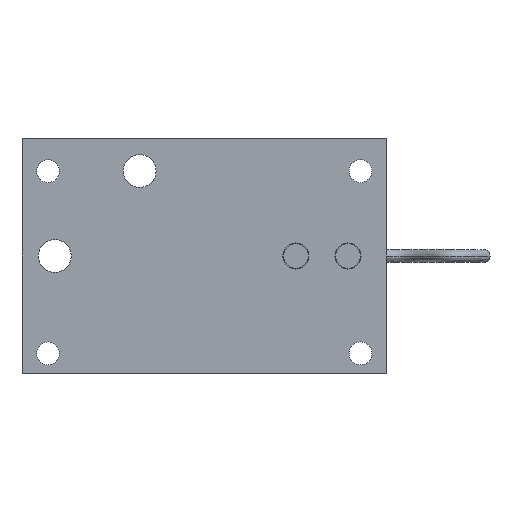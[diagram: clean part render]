
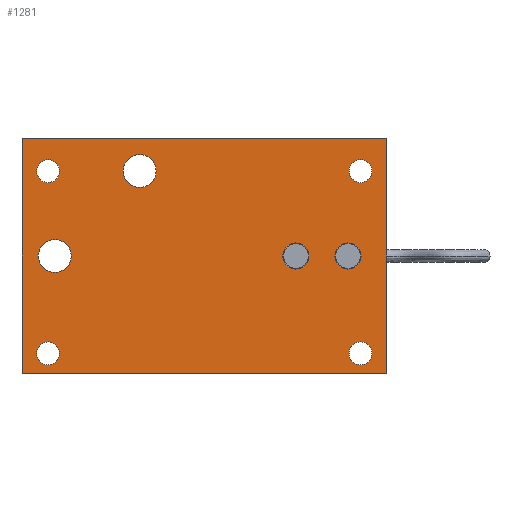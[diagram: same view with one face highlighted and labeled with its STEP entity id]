
A CAD part, front view. The second image highlights one B-rep face of the part: STEP entity #1281.
In plain terms, the highlighted planar face has unit normal (0, -1, 0).
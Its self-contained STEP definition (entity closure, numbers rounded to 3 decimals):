
#1=CARTESIAN_POINT('',(-76.2,0.,-47.5));
#2=DIRECTION('',(0.,-1.,0.));
#3=DIRECTION('',(1.,0.,0.));
#4=AXIS2_PLACEMENT_3D('',#1,#2,#3);
#6=CARTESIAN_POINT('',(-76.2,0.,-47.5));
#7=DIRECTION('',(0.,-1.,0.));
#8=DIRECTION('',(-1.,0.,0.));
#9=AXIS2_PLACEMENT_3D('',#6,#7,#8);
#11=CARTESIAN_POINT('',(-76.2,0.,41.4));
#12=DIRECTION('',(0.,-1.,0.));
#13=DIRECTION('',(1.,0.,0.));
#14=AXIS2_PLACEMENT_3D('',#11,#12,#13);
#16=CARTESIAN_POINT('',(-76.2,0.,41.4));
#17=DIRECTION('',(0.,-1.,0.));
#18=DIRECTION('',(-1.,0.,0.));
#19=AXIS2_PLACEMENT_3D('',#16,#17,#18);
#21=CARTESIAN_POINT('',(76.2,0.,41.4));
#22=DIRECTION('',(0.,-1.,0.));
#23=DIRECTION('',(1.,0.,0.));
#24=AXIS2_PLACEMENT_3D('',#21,#22,#23);
#26=CARTESIAN_POINT('',(76.2,0.,41.4));
#27=DIRECTION('',(0.,-1.,0.));
#28=DIRECTION('',(-1.,0.,0.));
#29=AXIS2_PLACEMENT_3D('',#26,#27,#28);
#31=CARTESIAN_POINT('',(76.2,0.,-47.5));
#32=DIRECTION('',(0.,-1.,0.));
#33=DIRECTION('',(1.,0.,0.));
#34=AXIS2_PLACEMENT_3D('',#31,#32,#33);
#36=CARTESIAN_POINT('',(76.2,0.,-47.5));
#37=DIRECTION('',(0.,-1.,0.));
#38=DIRECTION('',(-1.,0.,0.));
#39=AXIS2_PLACEMENT_3D('',#36,#37,#38);
#41=CARTESIAN_POINT('',(-72.9,0.,0.));
#42=DIRECTION('',(0.,-1.,0.));
#43=DIRECTION('',(1.,0.,0.));
#44=AXIS2_PLACEMENT_3D('',#41,#42,#43);
#46=CARTESIAN_POINT('',(-72.9,0.,0.));
#47=DIRECTION('',(0.,-1.,0.));
#48=DIRECTION('',(-1.,0.,0.));
#49=AXIS2_PLACEMENT_3D('',#46,#47,#48);
#51=CARTESIAN_POINT('',(-31.5,0.,41.4));
#52=DIRECTION('',(0.,-1.,0.));
#53=DIRECTION('',(1.,0.,0.));
#54=AXIS2_PLACEMENT_3D('',#51,#52,#53);
#56=CARTESIAN_POINT('',(-31.5,0.,41.4));
#57=DIRECTION('',(0.,-1.,0.));
#58=DIRECTION('',(-1.,0.,0.));
#59=AXIS2_PLACEMENT_3D('',#56,#57,#58);
#61=CARTESIAN_POINT('',(70.1,0.,0.));
#62=DIRECTION('',(0.,-1.,0.));
#63=DIRECTION('',(1.,0.,0.));
#64=AXIS2_PLACEMENT_3D('',#61,#62,#63);
#66=CARTESIAN_POINT('',(70.1,0.,0.));
#67=DIRECTION('',(0.,-1.,0.));
#68=DIRECTION('',(-1.,0.,0.));
#69=AXIS2_PLACEMENT_3D('',#66,#67,#68);
#71=CARTESIAN_POINT('',(44.7,0.,0.));
#72=DIRECTION('',(0.,-1.,0.));
#73=DIRECTION('',(1.,0.,0.));
#74=AXIS2_PLACEMENT_3D('',#71,#72,#73);
#76=CARTESIAN_POINT('',(44.7,0.,0.));
#77=DIRECTION('',(0.,-1.,0.));
#78=DIRECTION('',(-1.,0.,0.));
#79=AXIS2_PLACEMENT_3D('',#76,#77,#78);
#81=DIRECTION('',(0.,0.,1.));
#82=VECTOR('',#81,114.3);
#83=CARTESIAN_POINT('',(-88.9,0.,-57.15));
#84=LINE('',#83,#82);
#89=DIRECTION('',(-1.,0.,0.));
#90=VECTOR('',#89,177.8);
#91=CARTESIAN_POINT('',(88.9,0.,-57.15));
#92=LINE('',#91,#90);
#121=DIRECTION('',(0.,0.,-1.));
#122=VECTOR('',#121,114.3);
#123=CARTESIAN_POINT('',(88.9,0.,57.15));
#124=LINE('',#123,#122);
#872=DIRECTION('',(1.,0.,0.));
#873=VECTOR('',#872,177.8);
#874=CARTESIAN_POINT('',(-88.9,0.,57.15));
#875=LINE('',#874,#873);
#1114=CARTESIAN_POINT('',(-88.9,0.,-57.15));
#1115=CARTESIAN_POINT('',(-88.9,0.,57.15));
#1116=VERTEX_POINT('',#1114);
#1117=VERTEX_POINT('',#1115);
#1118=CARTESIAN_POINT('',(88.9,0.,-57.15));
#1119=VERTEX_POINT('',#1118);
#1120=CARTESIAN_POINT('',(88.9,0.,57.15));
#1121=VERTEX_POINT('',#1120);
#1122=CARTESIAN_POINT('',(-70.6,0.,-47.5));
#1123=CARTESIAN_POINT('',(-81.8,0.,-47.5));
#1124=VERTEX_POINT('',#1122);
#1125=VERTEX_POINT('',#1123);
#1126=CARTESIAN_POINT('',(-70.6,0.,41.4));
#1127=CARTESIAN_POINT('',(-81.8,0.,41.4));
#1128=VERTEX_POINT('',#1126);
#1129=VERTEX_POINT('',#1127);
#1130=CARTESIAN_POINT('',(81.8,0.,41.4));
#1131=CARTESIAN_POINT('',(70.6,0.,41.4));
#1132=VERTEX_POINT('',#1130);
#1133=VERTEX_POINT('',#1131);
#1134=CARTESIAN_POINT('',(81.8,0.,-47.5));
#1135=CARTESIAN_POINT('',(70.6,0.,-47.5));
#1136=VERTEX_POINT('',#1134);
#1137=VERTEX_POINT('',#1135);
#1138=CARTESIAN_POINT('',(-64.9,0.,0.));
#1139=CARTESIAN_POINT('',(-80.9,0.,0.));
#1140=VERTEX_POINT('',#1138);
#1141=VERTEX_POINT('',#1139);
#1142=CARTESIAN_POINT('',(-23.5,0.,41.4));
#1143=CARTESIAN_POINT('',(-39.5,0.,41.4));
#1144=VERTEX_POINT('',#1142);
#1145=VERTEX_POINT('',#1143);
#1146=CARTESIAN_POINT('',(76.45,0.,0.));
#1147=CARTESIAN_POINT('',(63.75,0.,0.));
#1148=VERTEX_POINT('',#1146);
#1149=VERTEX_POINT('',#1147);
#1150=CARTESIAN_POINT('',(51.05,0.,0.));
#1151=CARTESIAN_POINT('',(38.35,0.,0.));
#1152=VERTEX_POINT('',#1150);
#1153=VERTEX_POINT('',#1151);
#1218=CARTESIAN_POINT('',(0.,0.,0.));
#1219=DIRECTION('',(0.,1.,0.));
#1220=DIRECTION('',(1.,0.,0.));
#1221=AXIS2_PLACEMENT_3D('',#1218,#1219,#1220);
#1222=PLANE('',#1221);
#1224=ORIENTED_EDGE('',*,*,#1223,.T.);
#1226=ORIENTED_EDGE('',*,*,#1225,.T.);
#1228=ORIENTED_EDGE('',*,*,#1227,.T.);
#1230=ORIENTED_EDGE('',*,*,#1229,.T.);
#1231=EDGE_LOOP('',(#1224,#1226,#1228,#1230));
#1232=FACE_OUTER_BOUND('',#1231,.F.);
#1234=ORIENTED_EDGE('',*,*,#1233,.T.);
#1236=ORIENTED_EDGE('',*,*,#1235,.T.);
#1237=EDGE_LOOP('',(#1234,#1236));
#1238=FACE_BOUND('',#1237,.F.);
#1240=ORIENTED_EDGE('',*,*,#1239,.T.);
#1242=ORIENTED_EDGE('',*,*,#1241,.T.);
#1243=EDGE_LOOP('',(#1240,#1242));
#1244=FACE_BOUND('',#1243,.F.);
#1246=ORIENTED_EDGE('',*,*,#1245,.T.);
#1248=ORIENTED_EDGE('',*,*,#1247,.T.);
#1249=EDGE_LOOP('',(#1246,#1248));
#1250=FACE_BOUND('',#1249,.F.);
#1252=ORIENTED_EDGE('',*,*,#1251,.T.);
#1254=ORIENTED_EDGE('',*,*,#1253,.T.);
#1255=EDGE_LOOP('',(#1252,#1254));
#1256=FACE_BOUND('',#1255,.F.);
#1258=ORIENTED_EDGE('',*,*,#1257,.T.);
#1260=ORIENTED_EDGE('',*,*,#1259,.T.);
#1261=EDGE_LOOP('',(#1258,#1260));
#1262=FACE_BOUND('',#1261,.F.);
#1264=ORIENTED_EDGE('',*,*,#1263,.T.);
#1266=ORIENTED_EDGE('',*,*,#1265,.T.);
#1267=EDGE_LOOP('',(#1264,#1266));
#1268=FACE_BOUND('',#1267,.F.);
#1270=ORIENTED_EDGE('',*,*,#1269,.T.);
#1272=ORIENTED_EDGE('',*,*,#1271,.T.);
#1273=EDGE_LOOP('',(#1270,#1272));
#1274=FACE_BOUND('',#1273,.F.);
#1276=ORIENTED_EDGE('',*,*,#1275,.T.);
#1278=ORIENTED_EDGE('',*,*,#1277,.T.);
#1279=EDGE_LOOP('',(#1276,#1278));
#1280=FACE_BOUND('',#1279,.F.);
#1281=ADVANCED_FACE('',(#1232,#1238,#1244,#1250,#1256,#1262,#1268,#1274,#1280),
#1222,.F.);
#5=CIRCLE('',#4,5.6);
#10=CIRCLE('',#9,5.6);
#15=CIRCLE('',#14,5.6);
#20=CIRCLE('',#19,5.6);
#25=CIRCLE('',#24,5.6);
#30=CIRCLE('',#29,5.6);
#35=CIRCLE('',#34,5.6);
#40=CIRCLE('',#39,5.6);
#45=CIRCLE('',#44,8.);
#50=CIRCLE('',#49,8.);
#55=CIRCLE('',#54,8.);
#60=CIRCLE('',#59,8.);
#65=CIRCLE('',#64,6.35);
#70=CIRCLE('',#69,6.35);
#75=CIRCLE('',#74,6.35);
#80=CIRCLE('',#79,6.35);
#1223=EDGE_CURVE('',#1116,#1117,#84,.T.);
#1225=EDGE_CURVE('',#1117,#1121,#875,.T.);
#1227=EDGE_CURVE('',#1121,#1119,#124,.T.);
#1229=EDGE_CURVE('',#1119,#1116,#92,.T.);
#1233=EDGE_CURVE('',#1124,#1125,#5,.T.);
#1235=EDGE_CURVE('',#1125,#1124,#10,.T.);
#1239=EDGE_CURVE('',#1128,#1129,#15,.T.);
#1241=EDGE_CURVE('',#1129,#1128,#20,.T.);
#1245=EDGE_CURVE('',#1132,#1133,#25,.T.);
#1247=EDGE_CURVE('',#1133,#1132,#30,.T.);
#1251=EDGE_CURVE('',#1136,#1137,#35,.T.);
#1253=EDGE_CURVE('',#1137,#1136,#40,.T.);
#1257=EDGE_CURVE('',#1140,#1141,#45,.T.);
#1259=EDGE_CURVE('',#1141,#1140,#50,.T.);
#1263=EDGE_CURVE('',#1144,#1145,#55,.T.);
#1265=EDGE_CURVE('',#1145,#1144,#60,.T.);
#1269=EDGE_CURVE('',#1148,#1149,#65,.T.);
#1271=EDGE_CURVE('',#1149,#1148,#70,.T.);
#1275=EDGE_CURVE('',#1152,#1153,#75,.T.);
#1277=EDGE_CURVE('',#1153,#1152,#80,.T.);
